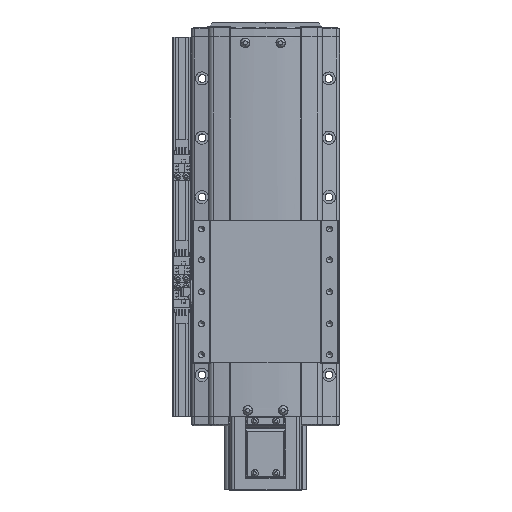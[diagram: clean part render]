
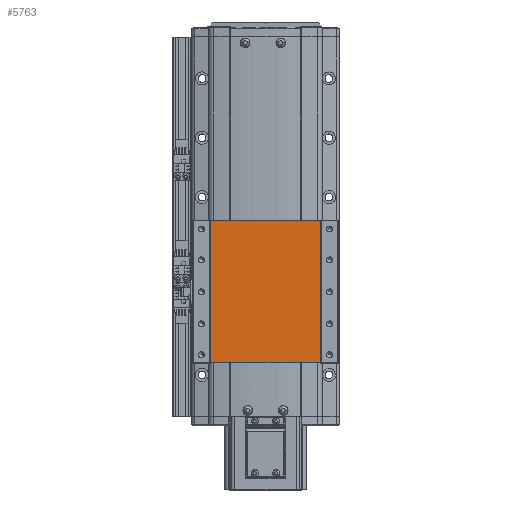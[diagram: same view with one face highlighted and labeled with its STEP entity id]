
A CAD part, top view. The second image highlights one B-rep face of the part: STEP entity #5763.
In plain terms, the highlighted planar face has unit normal (0, 0, 1).
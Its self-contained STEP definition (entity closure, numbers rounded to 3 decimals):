
#5763=ADVANCED_FACE('',(#14075),#14076,.F.);
#14075=FACE_OUTER_BOUND('',#26244,.T.);
#14076=PLANE('',#26245);
#26244=EDGE_LOOP('',(#43787,#43788,#43789,#43790));
#26245=AXIS2_PLACEMENT_3D('',#43791,#43792,#43793);
#43787=ORIENTED_EDGE('',*,*,#72644,.F.);
#43788=ORIENTED_EDGE('',*,*,#73079,.F.);
#43789=ORIENTED_EDGE('',*,*,#73080,.F.);
#43790=ORIENTED_EDGE('',*,*,#73081,.T.);
#43791=CARTESIAN_POINT('',(-300.,17.222,36.5));
#43792=DIRECTION('',(0.,0.,-1.0));
#43793=DIRECTION('',(-1.0,0.,0.));
#72644=EDGE_CURVE('',#88164,#88166,#88167,.T.);
#73079=EDGE_CURVE('',#88861,#88164,#88862,.T.);
#73080=EDGE_CURVE('',#88863,#88861,#88864,.T.);
#73081=EDGE_CURVE('',#88863,#88166,#88865,.T.);
#88164=VERTEX_POINT('',#109611);
#88166=VERTEX_POINT('',#109613);
#88167=LINE('',#109614,#109615);
#88861=VERTEX_POINT('',#110540);
#88862=LINE('',#110541,#110542);
#88863=VERTEX_POINT('',#110543);
#88864=LINE('',#110544,#110545);
#88865=LINE('',#110546,#110547);
#109611=CARTESIAN_POINT('',(-346.376,137.222,36.5));
#109613=CARTESIAN_POINT('',(-253.624,137.222,36.5));
#109614=CARTESIAN_POINT('',(-253.624,137.222,36.5));
#109615=VECTOR('',#131569,10.0);
#110540=CARTESIAN_POINT('',(-346.376,17.222,36.5));
#110541=CARTESIAN_POINT('',(-346.376,17.222,36.5));
#110542=VECTOR('',#132219,10.0);
#110543=CARTESIAN_POINT('',(-253.624,17.222,36.5));
#110544=CARTESIAN_POINT('',(-253.624,17.222,36.5));
#110545=VECTOR('',#132220,10.0);
#110546=CARTESIAN_POINT('',(-253.624,17.222,36.5));
#110547=VECTOR('',#132221,10.0);
#131569=DIRECTION('',(1.0,0.,0.));
#132219=DIRECTION('',(0.,1.0,0.));
#132220=DIRECTION('',(-1.0,0.,0.));
#132221=DIRECTION('',(0.,1.0,0.));
